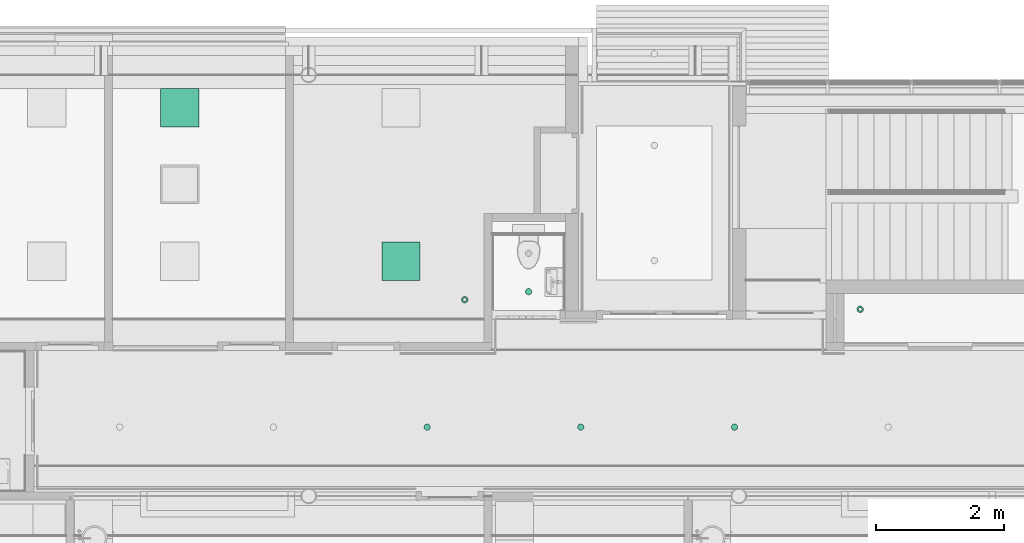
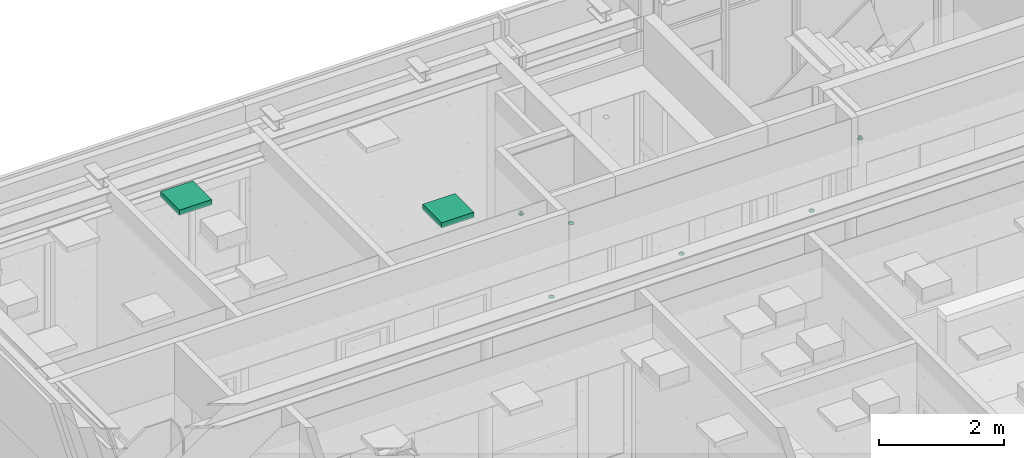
# One storey, part 197 of 347: 8 flow terminals.
"""IFC2X3 building model written with IfcOpenShell, lengths in millimetres."""

from ifc_helpers import new_model, entity, si_unit, converted_unit, derived_unit, money_unit, direction, frame, origin_with_axes, place, context, subcontext, project, spatial, open_shell, faceted_brep, surface_model, source, transform, mapped, type_object, type_shapes, element, save


model = new_model("IFC2X3")

# Units and contexts
model_context = context("Model", 3, precision=0.01, world=origin_with_axes(), true_north=direction((0.0, 1.0)))
plan_context = context("Plan", 3, precision=0.01, world=origin_with_axes(), true_north=direction((0.0, 1.0)))
body_context = subcontext(model_context, "Body", "Model", "MODEL_VIEW")
ifc_project = project(units=[si_unit("LENGTHUNIT", "METRE", prefix="MILLI"), si_unit("AREAUNIT", "SQUARE_METRE"), si_unit("VOLUMEUNIT", "CUBIC_METRE"), converted_unit("PLANEANGLEUNIT", "DEGREE", entity("IfcPlaneAngleMeasure", 0.0174532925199), si_unit("PLANEANGLEUNIT", "RADIAN"), dimensions=[0, 0, 0, 0, 0, 0, 0]), money_unit("EUR"), converted_unit("TIMEUNIT", "Year", entity("IfcTimeMeasure", 31556926.0), si_unit("TIMEUNIT", "SECOND"), dimensions=[0, 0, 1, 0, 0, 0, 0]), si_unit("MASSUNIT", "GRAM", prefix="KILO"), si_unit("THERMODYNAMICTEMPERATUREUNIT", "DEGREE_CELSIUS"), si_unit("LUMINOUSINTENSITYUNIT", "LUMEN"), si_unit("ENERGYUNIT", "JOULE", prefix="MEGA"), derived_unit("THERMALCONDUCTANCEUNIT", [(si_unit("POWERUNIT", "WATT"), 1), (si_unit("LENGTHUNIT", "METRE"), -1), (si_unit("THERMODYNAMICTEMPERATUREUNIT", "KELVIN"), -1)]), derived_unit("SPECIFICHEATCAPACITYUNIT", [(si_unit("ENERGYUNIT", "JOULE"), 1), (si_unit("MASSUNIT", "GRAM", prefix="KILO"), -1), (si_unit("THERMODYNAMICTEMPERATUREUNIT", "KELVIN"), -1)]), derived_unit("MASSDENSITYUNIT", [(si_unit("MASSUNIT", "GRAM", prefix="KILO"), 1), (si_unit("VOLUMEUNIT", "CUBIC_METRE"), -1)])], contexts=[model_context, plan_context])

# Site, building, storey
site_placement = place(None, origin_with_axes())
site = spatial("IfcSite", under=ifc_project, at=site_placement, Name="Site", CompositionType="ELEMENT")
building_placement = place(site_placement, origin_with_axes())
building = spatial("IfcBuilding", under=site, at=building_placement, Name="Naam gebouw", CompositionType="ELEMENT")
storey_placement = place(building_placement, origin_with_axes())
storey = spatial("IfcBuildingStorey", under=building, at=storey_placement, Name="begane grond", CompositionType="ELEMENT", Elevation=0.0)

# Flow terminals
lamp_type_1 = type_object("IfcLampType", Name="Spot plafond 01 25", PredefinedType="NOTDEFINED")
shared_shape_1 = source(origin_with_axes(), body_context, "Body", "SurfaceModel", [
    faceted_brep([(50.0, 0.0, -10.0), (46.1939766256, 19.1341716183, -10.0), (46.1939766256, 19.1341716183, 0.0), (50.0, 0.0, 0.0), (46.1939766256, -19.1341716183, -10.0), (35.3553390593, -35.3553390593, -10.0), (19.1341716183, -46.1939766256, -10.0), (0.0, -50.0, -10.0), (-19.1341716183, -46.1939766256, -10.0), (-35.3553390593, -35.3553390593, -10.0), (-46.1939766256, -19.1341716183, -10.0), (-50.0, 0.0, -10.0), (-46.1939766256, 19.1341716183, -10.0), (-35.3553390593, 35.3553390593, -10.0), (-19.1341716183, 46.1939766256, -10.0), (0.0, 50.0, -10.0), (19.1341716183, 46.1939766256, -10.0), (35.3553390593, 35.3553390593, -10.0), (40.0, 0.0, -10.0), (36.9551813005, 15.3073372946, -10.0), (28.2842712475, 28.2842712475, -10.0), (15.3073372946, 36.9551813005, -10.0), (0.0, 40.0, -10.0), (-15.3073372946, 36.9551813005, -10.0), (-28.2842712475, 28.2842712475, -10.0), (-36.9551813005, 15.3073372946, -10.0), (-40.0, 0.0, -10.0), (-36.9551813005, -15.3073372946, -10.0), (-28.2842712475, -28.2842712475, -10.0), (-15.3073372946, -36.9551813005, -10.0), (0.0, -40.0, -10.0), (15.3073372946, -36.9551813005, -10.0), (28.2842712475, -28.2842712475, -10.0), (36.9551813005, -15.3073372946, -10.0), (35.3553390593, 35.3553390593, 0.0), (19.1341716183, 46.1939766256, 0.0), (0.0, 50.0, 0.0), (-19.1341716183, 46.1939766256, 0.0), (-35.3553390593, 35.3553390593, 0.0), (-46.1939766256, 19.1341716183, 0.0), (-50.0, 0.0, 0.0), (-46.1939766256, -19.1341716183, 0.0), (-35.3553390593, -35.3553390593, 0.0), (-19.1341716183, -46.1939766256, 0.0), (0.0, -50.0, 0.0), (19.1341716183, -46.1939766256, 0.0), (35.3553390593, -35.3553390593, 0.0), (46.1939766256, -19.1341716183, 0.0), (40.0, 0.0, 0.0), (36.9551813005, -15.3073372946, 0.0), (28.2842712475, -28.2842712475, 0.0), (15.3073372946, -36.9551813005, 0.0), (0.0, -40.0, 0.0), (-15.3073372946, -36.9551813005, 0.0), (-28.2842712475, -28.2842712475, 0.0), (-36.9551813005, -15.3073372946, 0.0), (-40.0, 0.0, 0.0), (-36.9551813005, 15.3073372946, 0.0), (-28.2842712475, 28.2842712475, 0.0), (-15.3073372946, 36.9551813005, 0.0), (0.0, 40.0, 0.0), (15.3073372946, 36.9551813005, 0.0), (28.2842712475, 28.2842712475, 0.0), (36.9551813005, 15.3073372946, 0.0)], [[[0, 1, 2, 3]], [[0, 4, 5, 6, 7, 8, 9, 10, 11, 12, 13, 14, 15, 16, 17, 1], [18, 19, 20, 21, 22, 23, 24, 25, 26, 27, 28, 29, 30, 31, 32, 33]], [[1, 17, 34, 2]], [[3, 2, 34, 35, 36, 37, 38, 39, 40, 41, 42, 43, 44, 45, 46, 47], [48, 49, 50, 51, 52, 53, 54, 55, 56, 57, 58, 59, 60, 61, 62, 63]], [[4, 0, 3, 47]], [[5, 4, 47, 46]], [[6, 5, 46, 45]], [[7, 6, 45, 44]], [[8, 7, 44, 43]], [[9, 8, 43, 42]], [[10, 9, 42, 41]], [[11, 10, 41, 40]], [[12, 11, 40, 39]], [[13, 12, 39, 38]], [[14, 13, 38, 37]], [[15, 14, 37, 36]], [[16, 15, 36, 35]], [[17, 16, 35, 34]], [[19, 18, 48, 63]], [[20, 19, 63, 62]], [[21, 20, 62, 61]], [[22, 21, 61, 60]], [[23, 22, 60, 59]], [[24, 23, 59, 58]], [[25, 24, 58, 57]], [[26, 25, 57, 56]], [[27, 26, 56, 55]], [[28, 27, 55, 54]], [[29, 28, 54, 53]], [[30, 29, 53, 52]], [[31, 30, 52, 51]], [[32, 31, 51, 50]], [[33, 32, 50, 49]], [[18, 33, 49, 48]]]),
    surface_model("IfcShellBasedSurfaceModel", [(40.0, 0.0, -8.9), (36.9551813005, -15.3073372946, -8.9), (28.2842712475, -28.2842712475, -8.9), (15.3073372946, -36.9551813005, -8.9), (0.0, -40.0, -8.9), (-15.3073372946, -36.9551813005, -8.9), (-28.2842712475, -28.2842712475, -8.9), (-36.9551813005, -15.3073372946, -8.9), (-40.0, 0.0, -8.9), (-36.9551813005, 15.3073372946, -8.9), (-28.2842712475, 28.2842712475, -8.9), (-15.3073372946, 36.9551813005, -8.9), (0.0, 40.0, -8.9), (15.3073372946, 36.9551813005, -8.9), (28.2842712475, 28.2842712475, -8.9), (36.9551813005, 15.3073372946, -8.9)], [open_shell([[[0, 1, 2, 3, 4, 5, 6, 7, 8, 9, 10, 11, 12, 13, 14, 15]]])]),
])
type_shapes(lamp_type_1, [shared_shape_1])
for number, where, z_axis, x_axis, name in (
    (1, (18437.5, 13200.0, 3000.0), (0.0, 0.0, 1.0), (1.0, 0.0, 0.0), "63_Lamp-x"),
    (2, (16037.5, 13200.0, 3000.0), (0.0, 0.0, 1.0), (1.0, 0.0, 0.0), "63_Lamp-x"),
    (3, (13637.5, 13200.0, 3000.0), (0.0, 0.0, 1.0), (1.0, 0.0, 0.0), "63_Lamp-x"),
    (4, (15222.5, 15315.0, 2600.0), (0.0, 0.0, 1.0), (1.0, 0.0, 0.0), "63_Lamp-x"),
):
    element("IfcFlowTerminal", number, at=place(storey_placement, frame(where, z_axis=z_axis, x_axis=x_axis)), inside=storey, type_object=lamp_type_1, Name=name, ObjectType="Lamp", context=body_context, shape_type="MappedRepresentation", body=[
        mapped(shared_shape_1, transform((0.0, 0.0, 0.0))),
    ])
lamp_type_2 = type_object("IfcLampType", Name="TL plafond 25", PredefinedType="NOTDEFINED")
shared_shape_2 = source(origin_with_axes(), body_context, "Body", "SurfaceModel", [
    faceted_brep([(0.0, 0.0, -100.0), (600.0, 0.0, -100.0), (600.0, 0.0, 0.0), (0.0, 0.0, 0.0), (0.0, 600.0, -100.0), (600.0, 600.0, -100.0), (40.0, 40.0, -100.0), (560.0, 40.0, -100.0), (560.0, 560.0, -100.0), (40.0, 560.0, -100.0), (600.0, 600.0, 0.0), (0.0, 600.0, 0.0), (40.0, 40.0, 0.0), (40.0, 560.0, 0.0), (560.0, 560.0, 0.0), (560.0, 40.0, 0.0)], [[[0, 1, 2, 3]], [[0, 4, 5, 1], [6, 7, 8, 9]], [[1, 5, 10, 2]], [[3, 2, 10, 11], [12, 13, 14, 15]], [[4, 0, 3, 11]], [[5, 4, 11, 10]], [[7, 6, 12, 15]], [[8, 7, 15, 14]], [[9, 8, 14, 13]], [[6, 9, 13, 12]]]),
    faceted_brep([(40.0, 40.0, -16.3333333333), (560.0, 40.0, -16.3333333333), (560.0, 40.0, 0.0), (40.0, 40.0, 0.0), (40.0, 560.0, -16.3333333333), (560.0, 560.0, -16.3333333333), (560.0, 560.0, 0.0), (40.0, 560.0, 0.0)], [[[0, 1, 2, 3]], [[0, 4, 5, 1]], [[1, 5, 6, 2]], [[3, 2, 6, 7]], [[4, 0, 3, 7]], [[5, 4, 7, 6]]]),
    surface_model("IfcShellBasedSurfaceModel", [(559.0, 41.0, -100.0), (40.0, 41.0, -100.0), (40.0, 559.0, -100.0), (559.0, 559.0, -100.0)], [open_shell([[[0, 1, 2, 3]]])]),
    faceted_brep([(40.0, 40.0, -100.0), (560.0, 40.0, -100.0), (560.0, 40.0, -60.0), (40.0, 40.0, -60.0), (40.0, 560.0, -100.0), (560.0, 560.0, -100.0), (41.0, 41.0, -100.0), (559.0, 41.0, -100.0), (559.0, 559.0, -100.0), (41.0, 559.0, -100.0), (560.0, 560.0, -60.0), (40.0, 560.0, -60.0), (41.0, 41.0, -60.0), (41.0, 559.0, -60.0), (559.0, 559.0, -60.0), (559.0, 41.0, -60.0)], [[[0, 1, 2, 3]], [[0, 4, 5, 1], [6, 7, 8, 9]], [[1, 5, 10, 2]], [[3, 2, 10, 11], [12, 13, 14, 15]], [[4, 0, 3, 11]], [[5, 4, 11, 10]], [[7, 6, 12, 15]], [[8, 7, 15, 14]], [[9, 8, 14, 13]], [[6, 9, 13, 12]]]),
    faceted_brep([(40.0, 144.0, -48.3333333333), (40.0, 149.740251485, -47.191526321), (560.0, 149.740251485, -47.191526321), (560.0, 144.0, -48.3333333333), (40.0, 138.259748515, -47.191526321), (40.0, 133.393398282, -43.9399350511), (40.0, 130.141807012, -39.0735848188), (40.0, 129.0, -33.3333333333), (40.0, 130.141807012, -27.5930818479), (40.0, 133.393398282, -22.7267316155), (40.0, 138.259748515, -19.4751403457), (40.0, 144.0, -18.3333333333), (40.0, 149.740251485, -19.4751403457), (40.0, 154.606601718, -22.7267316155), (40.0, 157.858192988, -27.5930818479), (40.0, 159.0, -33.3333333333), (40.0, 157.858192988, -39.0735848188), (40.0, 154.606601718, -43.9399350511), (40.0, 144.0, -46.3333333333), (40.0, 148.974884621, -45.343767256), (40.0, 153.192388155, -42.5257214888), (40.0, 156.010433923, -38.3082179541), (40.0, 157.0, -33.3333333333), (40.0, 156.010433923, -28.3584487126), (40.0, 153.192388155, -24.1409451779), (40.0, 148.974884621, -21.3228994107), (40.0, 144.0, -20.3333333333), (40.0, 139.025115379, -21.3228994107), (40.0, 134.807611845, -24.1409451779), (40.0, 131.989566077, -28.3584487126), (40.0, 131.0, -33.3333333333), (40.0, 131.989566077, -38.3082179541), (40.0, 134.807611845, -42.5257214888), (40.0, 139.025115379, -45.343767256), (560.0, 154.606601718, -43.9399350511), (560.0, 157.858192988, -39.0735848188), (560.0, 159.0, -33.3333333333), (560.0, 157.858192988, -27.5930818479), (560.0, 154.606601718, -22.7267316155), (560.0, 149.740251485, -19.4751403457), (560.0, 144.0, -18.3333333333), (560.0, 138.259748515, -19.4751403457), (560.0, 133.393398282, -22.7267316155), (560.0, 130.141807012, -27.5930818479), (560.0, 129.0, -33.3333333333), (560.0, 130.141807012, -39.0735848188), (560.0, 133.393398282, -43.9399350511), (560.0, 138.259748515, -47.191526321), (560.0, 144.0, -46.3333333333), (560.0, 139.025115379, -45.343767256), (560.0, 134.807611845, -42.5257214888), (560.0, 131.989566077, -38.3082179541), (560.0, 131.0, -33.3333333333), (560.0, 131.989566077, -28.3584487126), (560.0, 134.807611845, -24.1409451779), (560.0, 139.025115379, -21.3228994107), (560.0, 144.0, -20.3333333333), (560.0, 148.974884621, -21.3228994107), (560.0, 153.192388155, -24.1409451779), (560.0, 156.010433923, -28.3584487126), (560.0, 157.0, -33.3333333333), (560.0, 156.010433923, -38.3082179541), (560.0, 153.192388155, -42.5257214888), (560.0, 148.974884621, -45.343767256)], [[[0, 1, 2, 3]], [[0, 4, 5, 6, 7, 8, 9, 10, 11, 12, 13, 14, 15, 16, 17, 1], [18, 19, 20, 21, 22, 23, 24, 25, 26, 27, 28, 29, 30, 31, 32, 33]], [[1, 17, 34, 2]], [[3, 2, 34, 35, 36, 37, 38, 39, 40, 41, 42, 43, 44, 45, 46, 47], [48, 49, 50, 51, 52, 53, 54, 55, 56, 57, 58, 59, 60, 61, 62, 63]], [[4, 0, 3, 47]], [[5, 4, 47, 46]], [[6, 5, 46, 45]], [[7, 6, 45, 44]], [[8, 7, 44, 43]], [[9, 8, 43, 42]], [[10, 9, 42, 41]], [[11, 10, 41, 40]], [[12, 11, 40, 39]], [[13, 12, 39, 38]], [[14, 13, 38, 37]], [[15, 14, 37, 36]], [[16, 15, 36, 35]], [[17, 16, 35, 34]], [[19, 18, 48, 63]], [[20, 19, 63, 62]], [[21, 20, 62, 61]], [[22, 21, 61, 60]], [[23, 22, 60, 59]], [[24, 23, 59, 58]], [[25, 24, 58, 57]], [[26, 25, 57, 56]], [[27, 26, 56, 55]], [[28, 27, 55, 54]], [[29, 28, 54, 53]], [[30, 29, 53, 52]], [[31, 30, 52, 51]], [[32, 31, 51, 50]], [[33, 32, 50, 49]], [[18, 33, 49, 48]]]),
    faceted_brep([(40.0, 248.0, -48.3333333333), (40.0, 253.740251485, -47.191526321), (560.0, 253.740251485, -47.191526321), (560.0, 248.0, -48.3333333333), (40.0, 242.259748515, -47.191526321), (40.0, 237.393398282, -43.9399350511), (40.0, 234.141807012, -39.0735848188), (40.0, 233.0, -33.3333333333), (40.0, 234.141807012, -27.5930818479), (40.0, 237.393398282, -22.7267316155), (40.0, 242.259748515, -19.4751403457), (40.0, 248.0, -18.3333333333), (40.0, 253.740251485, -19.4751403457), (40.0, 258.606601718, -22.7267316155), (40.0, 261.858192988, -27.5930818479), (40.0, 263.0, -33.3333333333), (40.0, 261.858192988, -39.0735848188), (40.0, 258.606601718, -43.9399350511), (40.0, 248.0, -46.3333333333), (40.0, 252.974884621, -45.343767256), (40.0, 257.192388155, -42.5257214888), (40.0, 260.010433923, -38.3082179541), (40.0, 261.0, -33.3333333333), (40.0, 260.010433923, -28.3584487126), (40.0, 257.192388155, -24.1409451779), (40.0, 252.974884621, -21.3228994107), (40.0, 248.0, -20.3333333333), (40.0, 243.025115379, -21.3228994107), (40.0, 238.807611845, -24.1409451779), (40.0, 235.989566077, -28.3584487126), (40.0, 235.0, -33.3333333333), (40.0, 235.989566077, -38.3082179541), (40.0, 238.807611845, -42.5257214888), (40.0, 243.025115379, -45.343767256), (560.0, 258.606601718, -43.9399350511), (560.0, 261.858192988, -39.0735848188), (560.0, 263.0, -33.3333333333), (560.0, 261.858192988, -27.5930818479), (560.0, 258.606601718, -22.7267316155), (560.0, 253.740251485, -19.4751403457), (560.0, 248.0, -18.3333333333), (560.0, 242.259748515, -19.4751403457), (560.0, 237.393398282, -22.7267316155), (560.0, 234.141807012, -27.5930818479), (560.0, 233.0, -33.3333333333), (560.0, 234.141807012, -39.0735848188), (560.0, 237.393398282, -43.9399350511), (560.0, 242.259748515, -47.191526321), (560.0, 248.0, -46.3333333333), (560.0, 243.025115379, -45.343767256), (560.0, 238.807611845, -42.5257214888), (560.0, 235.989566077, -38.3082179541), (560.0, 235.0, -33.3333333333), (560.0, 235.989566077, -28.3584487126), (560.0, 238.807611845, -24.1409451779), (560.0, 243.025115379, -21.3228994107), (560.0, 248.0, -20.3333333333), (560.0, 252.974884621, -21.3228994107), (560.0, 257.192388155, -24.1409451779), (560.0, 260.010433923, -28.3584487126), (560.0, 261.0, -33.3333333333), (560.0, 260.010433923, -38.3082179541), (560.0, 257.192388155, -42.5257214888), (560.0, 252.974884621, -45.343767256)], [[[0, 1, 2, 3]], [[0, 4, 5, 6, 7, 8, 9, 10, 11, 12, 13, 14, 15, 16, 17, 1], [18, 19, 20, 21, 22, 23, 24, 25, 26, 27, 28, 29, 30, 31, 32, 33]], [[1, 17, 34, 2]], [[3, 2, 34, 35, 36, 37, 38, 39, 40, 41, 42, 43, 44, 45, 46, 47], [48, 49, 50, 51, 52, 53, 54, 55, 56, 57, 58, 59, 60, 61, 62, 63]], [[4, 0, 3, 47]], [[5, 4, 47, 46]], [[6, 5, 46, 45]], [[7, 6, 45, 44]], [[8, 7, 44, 43]], [[9, 8, 43, 42]], [[10, 9, 42, 41]], [[11, 10, 41, 40]], [[12, 11, 40, 39]], [[13, 12, 39, 38]], [[14, 13, 38, 37]], [[15, 14, 37, 36]], [[16, 15, 36, 35]], [[17, 16, 35, 34]], [[19, 18, 48, 63]], [[20, 19, 63, 62]], [[21, 20, 62, 61]], [[22, 21, 61, 60]], [[23, 22, 60, 59]], [[24, 23, 59, 58]], [[25, 24, 58, 57]], [[26, 25, 57, 56]], [[27, 26, 56, 55]], [[28, 27, 55, 54]], [[29, 28, 54, 53]], [[30, 29, 53, 52]], [[31, 30, 52, 51]], [[32, 31, 51, 50]], [[33, 32, 50, 49]], [[18, 33, 49, 48]]]),
    faceted_brep([(40.0, 352.0, -48.3333333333), (40.0, 357.740251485, -47.191526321), (560.0, 357.740251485, -47.191526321), (560.0, 352.0, -48.3333333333), (40.0, 346.259748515, -47.191526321), (40.0, 341.393398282, -43.9399350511), (40.0, 338.141807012, -39.0735848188), (40.0, 337.0, -33.3333333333), (40.0, 338.141807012, -27.5930818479), (40.0, 341.393398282, -22.7267316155), (40.0, 346.259748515, -19.4751403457), (40.0, 352.0, -18.3333333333), (40.0, 357.740251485, -19.4751403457), (40.0, 362.606601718, -22.7267316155), (40.0, 365.858192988, -27.5930818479), (40.0, 367.0, -33.3333333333), (40.0, 365.858192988, -39.0735848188), (40.0, 362.606601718, -43.9399350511), (40.0, 352.0, -46.3333333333), (40.0, 356.974884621, -45.343767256), (40.0, 361.192388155, -42.5257214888), (40.0, 364.010433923, -38.3082179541), (40.0, 365.0, -33.3333333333), (40.0, 364.010433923, -28.3584487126), (40.0, 361.192388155, -24.1409451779), (40.0, 356.974884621, -21.3228994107), (40.0, 352.0, -20.3333333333), (40.0, 347.025115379, -21.3228994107), (40.0, 342.807611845, -24.1409451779), (40.0, 339.989566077, -28.3584487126), (40.0, 339.0, -33.3333333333), (40.0, 339.989566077, -38.3082179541), (40.0, 342.807611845, -42.5257214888), (40.0, 347.025115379, -45.343767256), (560.0, 362.606601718, -43.9399350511), (560.0, 365.858192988, -39.0735848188), (560.0, 367.0, -33.3333333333), (560.0, 365.858192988, -27.5930818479), (560.0, 362.606601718, -22.7267316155), (560.0, 357.740251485, -19.4751403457), (560.0, 352.0, -18.3333333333), (560.0, 346.259748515, -19.4751403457), (560.0, 341.393398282, -22.7267316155), (560.0, 338.141807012, -27.5930818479), (560.0, 337.0, -33.3333333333), (560.0, 338.141807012, -39.0735848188), (560.0, 341.393398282, -43.9399350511), (560.0, 346.259748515, -47.191526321), (560.0, 352.0, -46.3333333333), (560.0, 347.025115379, -45.343767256), (560.0, 342.807611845, -42.5257214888), (560.0, 339.989566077, -38.3082179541), (560.0, 339.0, -33.3333333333), (560.0, 339.989566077, -28.3584487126), (560.0, 342.807611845, -24.1409451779), (560.0, 347.025115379, -21.3228994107), (560.0, 352.0, -20.3333333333), (560.0, 356.974884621, -21.3228994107), (560.0, 361.192388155, -24.1409451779), (560.0, 364.010433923, -28.3584487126), (560.0, 365.0, -33.3333333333), (560.0, 364.010433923, -38.3082179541), (560.0, 361.192388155, -42.5257214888), (560.0, 356.974884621, -45.343767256)], [[[0, 1, 2, 3]], [[0, 4, 5, 6, 7, 8, 9, 10, 11, 12, 13, 14, 15, 16, 17, 1], [18, 19, 20, 21, 22, 23, 24, 25, 26, 27, 28, 29, 30, 31, 32, 33]], [[1, 17, 34, 2]], [[3, 2, 34, 35, 36, 37, 38, 39, 40, 41, 42, 43, 44, 45, 46, 47], [48, 49, 50, 51, 52, 53, 54, 55, 56, 57, 58, 59, 60, 61, 62, 63]], [[4, 0, 3, 47]], [[5, 4, 47, 46]], [[6, 5, 46, 45]], [[7, 6, 45, 44]], [[8, 7, 44, 43]], [[9, 8, 43, 42]], [[10, 9, 42, 41]], [[11, 10, 41, 40]], [[12, 11, 40, 39]], [[13, 12, 39, 38]], [[14, 13, 38, 37]], [[15, 14, 37, 36]], [[16, 15, 36, 35]], [[17, 16, 35, 34]], [[19, 18, 48, 63]], [[20, 19, 63, 62]], [[21, 20, 62, 61]], [[22, 21, 61, 60]], [[23, 22, 60, 59]], [[24, 23, 59, 58]], [[25, 24, 58, 57]], [[26, 25, 57, 56]], [[27, 26, 56, 55]], [[28, 27, 55, 54]], [[29, 28, 54, 53]], [[30, 29, 53, 52]], [[31, 30, 52, 51]], [[32, 31, 51, 50]], [[33, 32, 50, 49]], [[18, 33, 49, 48]]]),
    faceted_brep([(40.0, 456.0, -48.3333333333), (40.0, 461.740251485, -47.191526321), (560.0, 461.740251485, -47.191526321), (560.0, 456.0, -48.3333333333), (40.0, 450.259748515, -47.191526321), (40.0, 445.393398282, -43.9399350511), (40.0, 442.141807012, -39.0735848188), (40.0, 441.0, -33.3333333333), (40.0, 442.141807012, -27.5930818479), (40.0, 445.393398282, -22.7267316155), (40.0, 450.259748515, -19.4751403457), (40.0, 456.0, -18.3333333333), (40.0, 461.740251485, -19.4751403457), (40.0, 466.606601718, -22.7267316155), (40.0, 469.858192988, -27.5930818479), (40.0, 471.0, -33.3333333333), (40.0, 469.858192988, -39.0735848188), (40.0, 466.606601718, -43.9399350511), (40.0, 456.0, -46.3333333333), (40.0, 460.974884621, -45.343767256), (40.0, 465.192388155, -42.5257214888), (40.0, 468.010433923, -38.3082179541), (40.0, 469.0, -33.3333333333), (40.0, 468.010433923, -28.3584487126), (40.0, 465.192388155, -24.1409451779), (40.0, 460.974884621, -21.3228994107), (40.0, 456.0, -20.3333333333), (40.0, 451.025115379, -21.3228994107), (40.0, 446.807611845, -24.1409451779), (40.0, 443.989566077, -28.3584487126), (40.0, 443.0, -33.3333333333), (40.0, 443.989566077, -38.3082179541), (40.0, 446.807611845, -42.5257214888), (40.0, 451.025115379, -45.343767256), (560.0, 466.606601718, -43.9399350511), (560.0, 469.858192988, -39.0735848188), (560.0, 471.0, -33.3333333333), (560.0, 469.858192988, -27.5930818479), (560.0, 466.606601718, -22.7267316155), (560.0, 461.740251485, -19.4751403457), (560.0, 456.0, -18.3333333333), (560.0, 450.259748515, -19.4751403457), (560.0, 445.393398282, -22.7267316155), (560.0, 442.141807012, -27.5930818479), (560.0, 441.0, -33.3333333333), (560.0, 442.141807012, -39.0735848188), (560.0, 445.393398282, -43.9399350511), (560.0, 450.259748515, -47.191526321), (560.0, 456.0, -46.3333333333), (560.0, 451.025115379, -45.343767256), (560.0, 446.807611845, -42.5257214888), (560.0, 443.989566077, -38.3082179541), (560.0, 443.0, -33.3333333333), (560.0, 443.989566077, -28.3584487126), (560.0, 446.807611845, -24.1409451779), (560.0, 451.025115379, -21.3228994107), (560.0, 456.0, -20.3333333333), (560.0, 460.974884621, -21.3228994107), (560.0, 465.192388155, -24.1409451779), (560.0, 468.010433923, -28.3584487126), (560.0, 469.0, -33.3333333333), (560.0, 468.010433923, -38.3082179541), (560.0, 465.192388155, -42.5257214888), (560.0, 460.974884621, -45.343767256)], [[[0, 1, 2, 3]], [[0, 4, 5, 6, 7, 8, 9, 10, 11, 12, 13, 14, 15, 16, 17, 1], [18, 19, 20, 21, 22, 23, 24, 25, 26, 27, 28, 29, 30, 31, 32, 33]], [[1, 17, 34, 2]], [[3, 2, 34, 35, 36, 37, 38, 39, 40, 41, 42, 43, 44, 45, 46, 47], [48, 49, 50, 51, 52, 53, 54, 55, 56, 57, 58, 59, 60, 61, 62, 63]], [[4, 0, 3, 47]], [[5, 4, 47, 46]], [[6, 5, 46, 45]], [[7, 6, 45, 44]], [[8, 7, 44, 43]], [[9, 8, 43, 42]], [[10, 9, 42, 41]], [[11, 10, 41, 40]], [[12, 11, 40, 39]], [[13, 12, 39, 38]], [[14, 13, 38, 37]], [[15, 14, 37, 36]], [[16, 15, 36, 35]], [[17, 16, 35, 34]], [[19, 18, 48, 63]], [[20, 19, 63, 62]], [[21, 20, 62, 61]], [[22, 21, 61, 60]], [[23, 22, 60, 59]], [[24, 23, 59, 58]], [[25, 24, 58, 57]], [[26, 25, 57, 56]], [[27, 26, 56, 55]], [[28, 27, 55, 54]], [[29, 28, 54, 53]], [[30, 29, 53, 52]], [[31, 30, 52, 51]], [[32, 31, 51, 50]], [[33, 32, 50, 49]], [[18, 33, 49, 48]]]),
])
type_shapes(lamp_type_2, [shared_shape_2])
for number, where, z_axis, x_axis, name in (
    (5, (9475.0, 17890.000144, 3295.0), (0.0, 0.0, 1.0), (1.0, 0.0, 0.0), "63_Lamp-x"),
    (6, (12929.0, 15490.000144, 3295.0), (0.0, 0.0, 1.0), (1.0, 0.0, 0.0), "63_Lamp-x"),
):
    element("IfcFlowTerminal", number, at=place(storey_placement, frame(where, z_axis=z_axis, x_axis=x_axis)), inside=storey, type_object=lamp_type_2, Name=name, ObjectType="Lamp", context=body_context, shape_type="MappedRepresentation", body=[
        mapped(shared_shape_2, transform((0.0, 0.0, 0.0))),
    ])
air_terminal_type = type_object("IfcAirTerminalType", Name="Rooster plafond rond 25", PredefinedType="GRILLE")
shared_shape_3 = source(origin_with_axes(), body_context, "Body", "SurfaceModel", [
    faceted_brep([(51.0, 0.0, -5.0), (49.2622171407, 13.1997713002, -5.0), (49.2622171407, 13.1997713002, 0.0), (51.0, 0.0, 0.0), (49.2622171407, -13.1997713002, -5.0), (44.167295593, -25.5, -5.0), (36.0624458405, -36.0624458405, -5.0), (25.5, -44.167295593, -5.0), (13.1997713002, -49.2622171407, -5.0), (0.0, -51.0, -5.0), (-13.1997713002, -49.2622171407, -5.0), (-25.5, -44.167295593, -5.0), (-36.0624458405, -36.0624458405, -5.0), (-44.167295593, -25.5, -5.0), (-49.2622171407, -13.1997713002, -5.0), (-51.0, 0.0, -5.0), (-49.2622171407, 13.1997713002, -5.0), (-44.167295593, 25.5, -5.0), (-36.0624458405, 36.0624458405, -5.0), (-25.5, 44.167295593, -5.0), (-13.1997713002, 49.2622171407, -5.0), (0.0, 51.0, -5.0), (13.1997713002, 49.2622171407, -5.0), (25.5, 44.167295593, -5.0), (36.0624458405, 36.0624458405, -5.0), (44.167295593, 25.5, -5.0), (26.0, 0.0, -5.0), (25.1140714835, 6.72929517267, -5.0), (22.5166604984, 13.0, -5.0), (18.3847763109, 18.3847763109, -5.0), (13.0, 22.5166604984, -5.0), (6.72929517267, 25.1140714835, -5.0), (0.0, 26.0, -5.0), (-6.72929517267, 25.1140714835, -5.0), (-13.0, 22.5166604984, -5.0), (-18.3847763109, 18.3847763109, -5.0), (-22.5166604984, 13.0, -5.0), (-25.1140714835, 6.72929517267, -5.0), (-26.0, 0.0, -5.0), (-25.1140714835, -6.72929517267, -5.0), (-22.5166604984, -13.0, -5.0), (-18.3847763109, -18.3847763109, -5.0), (-13.0, -22.5166604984, -5.0), (-6.72929517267, -25.1140714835, -5.0), (0.0, -26.0, -5.0), (6.72929517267, -25.1140714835, -5.0), (13.0, -22.5166604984, -5.0), (18.3847763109, -18.3847763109, -5.0), (22.5166604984, -13.0, -5.0), (25.1140714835, -6.72929517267, -5.0), (44.167295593, 25.5, 0.0), (36.0624458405, 36.0624458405, 0.0), (25.5, 44.167295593, 0.0), (13.1997713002, 49.2622171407, 0.0), (0.0, 51.0, 0.0), (-13.1997713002, 49.2622171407, 0.0), (-25.5, 44.167295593, 0.0), (-36.0624458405, 36.0624458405, 0.0), (-44.167295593, 25.5, 0.0), (-49.2622171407, 13.1997713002, 0.0), (-51.0, 0.0, 0.0), (-49.2622171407, -13.1997713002, 0.0), (-44.167295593, -25.5, 0.0), (-36.0624458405, -36.0624458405, 0.0), (-25.5, -44.167295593, 0.0), (-13.1997713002, -49.2622171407, 0.0), (0.0, -51.0, 0.0), (13.1997713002, -49.2622171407, 0.0), (25.5, -44.167295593, 0.0), (36.0624458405, -36.0624458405, 0.0), (44.167295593, -25.5, 0.0), (49.2622171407, -13.1997713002, 0.0), (26.0, 0.0, 0.0), (25.1140714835, -6.72929517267, 0.0), (22.5166604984, -13.0, 0.0), (18.3847763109, -18.3847763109, 0.0), (13.0, -22.5166604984, 0.0), (6.72929517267, -25.1140714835, 0.0), (0.0, -26.0, 0.0), (-6.72929517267, -25.1140714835, 0.0), (-13.0, -22.5166604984, 0.0), (-18.3847763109, -18.3847763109, 0.0), (-22.5166604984, -13.0, 0.0), (-25.1140714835, -6.72929517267, 0.0), (-26.0, 0.0, 0.0), (-25.1140714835, 6.72929517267, 0.0), (-22.5166604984, 13.0, 0.0), (-18.3847763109, 18.3847763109, 0.0), (-13.0, 22.5166604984, 0.0), (-6.72929517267, 25.1140714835, 0.0), (0.0, 26.0, 0.0), (6.72929517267, 25.1140714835, 0.0), (13.0, 22.5166604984, 0.0), (18.3847763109, 18.3847763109, 0.0), (22.5166604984, 13.0, 0.0), (25.1140714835, 6.72929517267, 0.0)], [[[0, 1, 2, 3]], [[0, 4, 5, 6, 7, 8, 9, 10, 11, 12, 13, 14, 15, 16, 17, 18, 19, 20, 21, 22, 23, 24, 25, 1], [26, 27, 28, 29, 30, 31, 32, 33, 34, 35, 36, 37, 38, 39, 40, 41, 42, 43, 44, 45, 46, 47, 48, 49]], [[1, 25, 50, 2]], [[3, 2, 50, 51, 52, 53, 54, 55, 56, 57, 58, 59, 60, 61, 62, 63, 64, 65, 66, 67, 68, 69, 70, 71], [72, 73, 74, 75, 76, 77, 78, 79, 80, 81, 82, 83, 84, 85, 86, 87, 88, 89, 90, 91, 92, 93, 94, 95]], [[4, 0, 3, 71]], [[5, 4, 71, 70]], [[6, 5, 70, 69]], [[7, 6, 69, 68]], [[8, 7, 68, 67]], [[9, 8, 67, 66]], [[10, 9, 66, 65]], [[11, 10, 65, 64]], [[12, 11, 64, 63]], [[13, 12, 63, 62]], [[14, 13, 62, 61]], [[15, 14, 61, 60]], [[16, 15, 60, 59]], [[17, 16, 59, 58]], [[18, 17, 58, 57]], [[19, 18, 57, 56]], [[20, 19, 56, 55]], [[21, 20, 55, 54]], [[22, 21, 54, 53]], [[23, 22, 53, 52]], [[24, 23, 52, 51]], [[25, 24, 51, 50]], [[27, 26, 72, 95]], [[28, 27, 95, 94]], [[29, 28, 94, 93]], [[30, 29, 93, 92]], [[31, 30, 92, 91]], [[32, 31, 91, 90]], [[33, 32, 90, 89]], [[34, 33, 89, 88]], [[35, 34, 88, 87]], [[36, 35, 87, 86]], [[37, 36, 86, 85]], [[38, 37, 85, 84]], [[39, 38, 84, 83]], [[40, 39, 83, 82]], [[41, 40, 82, 81]], [[42, 41, 81, 80]], [[43, 42, 80, 79]], [[44, 43, 79, 78]], [[45, 44, 78, 77]], [[46, 45, 77, 76]], [[47, 46, 76, 75]], [[48, 47, 75, 74]], [[49, 48, 74, 73]], [[26, 49, 73, 72]]]),
    surface_model("IfcShellBasedSurfaceModel", [(0.0, -26.0, 0.0), (6.72929517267, -25.1140714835, 0.0), (6.72929517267, -25.1140714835, 50.0), (0.0, -26.0, 50.0), (13.0, -22.5166604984, 0.0), (13.0, -22.5166604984, 50.0), (-6.72929517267, -25.1140714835, 0.0), (-6.72929517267, -25.1140714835, 50.0), (18.3847763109, -18.3847763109, 0.0), (18.3847763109, -18.3847763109, 50.0), (-13.0, -22.5166604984, 0.0), (-13.0, -22.5166604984, 50.0), (22.5166604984, -13.0, 0.0), (22.5166604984, -13.0, 50.0), (-18.3847763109, -18.3847763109, 0.0), (-18.3847763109, -18.3847763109, 50.0), (25.1140714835, -6.72929517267, 0.0), (25.1140714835, -6.72929517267, 50.0), (-22.5166604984, -13.0, 0.0), (-22.5166604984, -13.0, 50.0), (26.0, 0.0, 0.0), (26.0, 0.0, 50.0), (-25.1140714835, -6.72929517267, 0.0), (-25.1140714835, -6.72929517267, 50.0), (25.1140714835, 6.72929517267, 0.0), (25.1140714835, 6.72929517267, 50.0), (-26.0, 0.0, 0.0), (-26.0, 0.0, 50.0), (22.5166604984, 13.0, 0.0), (22.5166604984, 13.0, 50.0), (-25.1140714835, 6.72929517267, 0.0), (-25.1140714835, 6.72929517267, 50.0), (18.3847763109, 18.3847763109, 0.0), (18.3847763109, 18.3847763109, 50.0), (-22.5166604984, 13.0, 0.0), (-22.5166604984, 13.0, 50.0), (13.0, 22.5166604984, 0.0), (13.0, 22.5166604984, 50.0), (-18.3847763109, 18.3847763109, 0.0), (-18.3847763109, 18.3847763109, 50.0), (6.72929517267, 25.1140714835, 0.0), (6.72929517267, 25.1140714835, 50.0), (-13.0, 22.5166604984, 0.0), (-13.0, 22.5166604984, 50.0), (0.0, 26.0, 0.0), (0.0, 26.0, 50.0), (-6.72929517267, 25.1140714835, 0.0), (-6.72929517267, 25.1140714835, 50.0)], [open_shell([[[0, 1, 2, 3]], [[1, 4, 5, 2]], [[6, 0, 3, 7]], [[4, 8, 9, 5]], [[10, 6, 7, 11]], [[8, 12, 13, 9]], [[14, 10, 11, 15]], [[12, 16, 17, 13]], [[18, 14, 15, 19]], [[16, 20, 21, 17]], [[22, 18, 19, 23]], [[20, 24, 25, 21]], [[26, 22, 23, 27]], [[24, 28, 29, 25]], [[30, 26, 27, 31]], [[28, 32, 33, 29]], [[34, 30, 31, 35]], [[32, 36, 37, 33]], [[38, 34, 35, 39]], [[36, 40, 41, 37]], [[42, 38, 39, 43]], [[40, 44, 45, 41]], [[46, 42, 43, 47]], [[44, 46, 47, 45]]])]),
])
type_shapes(air_terminal_type, [shared_shape_3])
for number, where, z_axis, x_axis, name in (
    (7, (14225.0, 15190.0000948, 3200.0), (0.0, 0.0, 1.0), (1.0, 0.0, 0.0), "57_78 garderobe"),
    (8, (20399.9995016, 15039.9997278, 2600.0), (0.0, 0.0, 1.0), (1.0, 0.0, 0.0), "57_78 garderobe"),
):
    element("IfcFlowTerminal", number, at=place(storey_placement, frame(where, z_axis=z_axis, x_axis=x_axis)), inside=storey, type_object=air_terminal_type, Name=name, context=body_context, shape_type="MappedRepresentation", body=[
        mapped(shared_shape_3, transform((0.0, 0.0, 0.0))),
    ])

save(model, "model.ifc")
